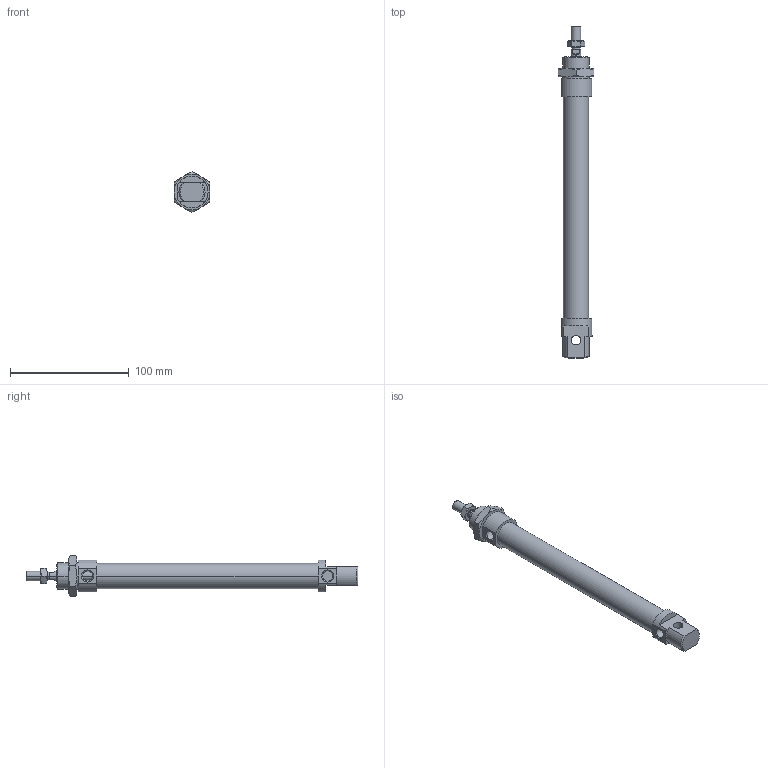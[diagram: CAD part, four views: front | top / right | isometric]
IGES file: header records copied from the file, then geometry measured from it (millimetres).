
Global section: file name: No Iges File Name specified; native system: Autodesk Inventor 2010; preprocessor: AutoDesk Inventor Iges Exporter R2010; author: rivolro1; date: 20090604.093303; units: millimetre
Bounding box: 30 x 280 x 34.64 mm (x, y, z)
Volume: 97305.1 mm3; surface area: 32061.5 mm2
Topology: 4 solids, 4 shells, 110 faces, 249 edges, 152 vertices
Faces by surface type: plane 41, cone 28, bspline 21, cylinder 14, revolution 6
